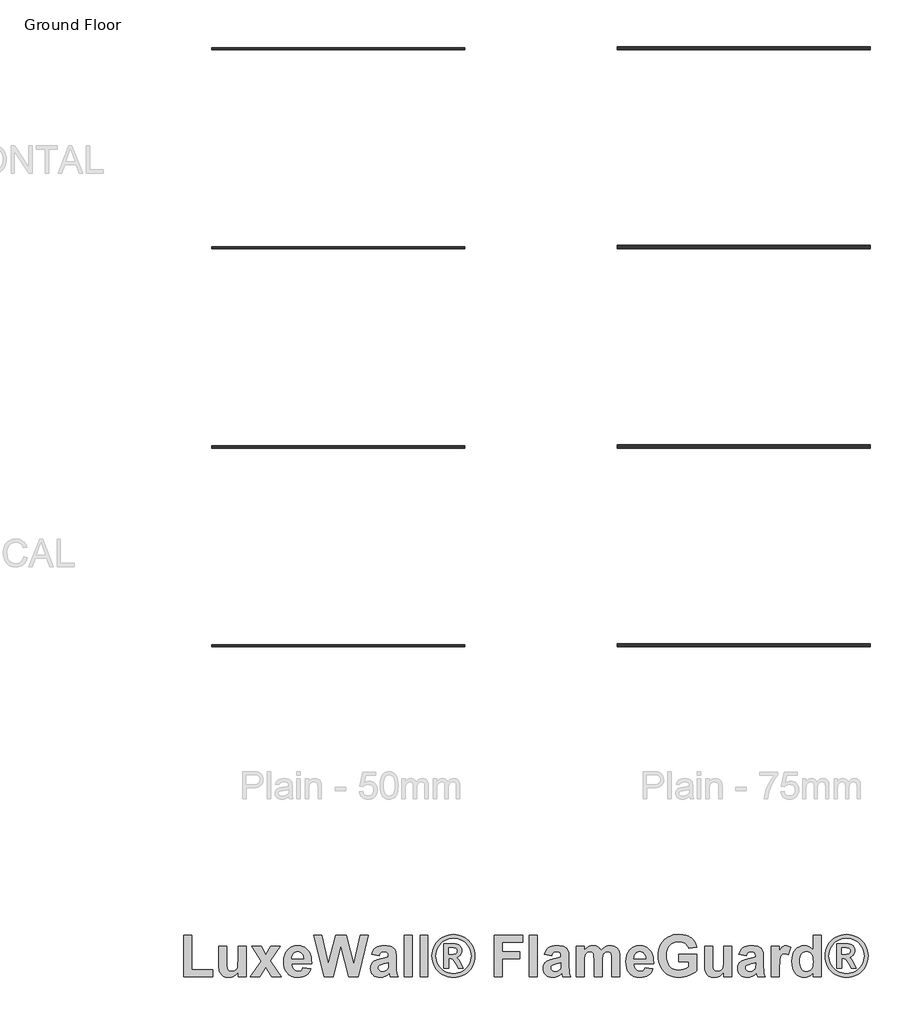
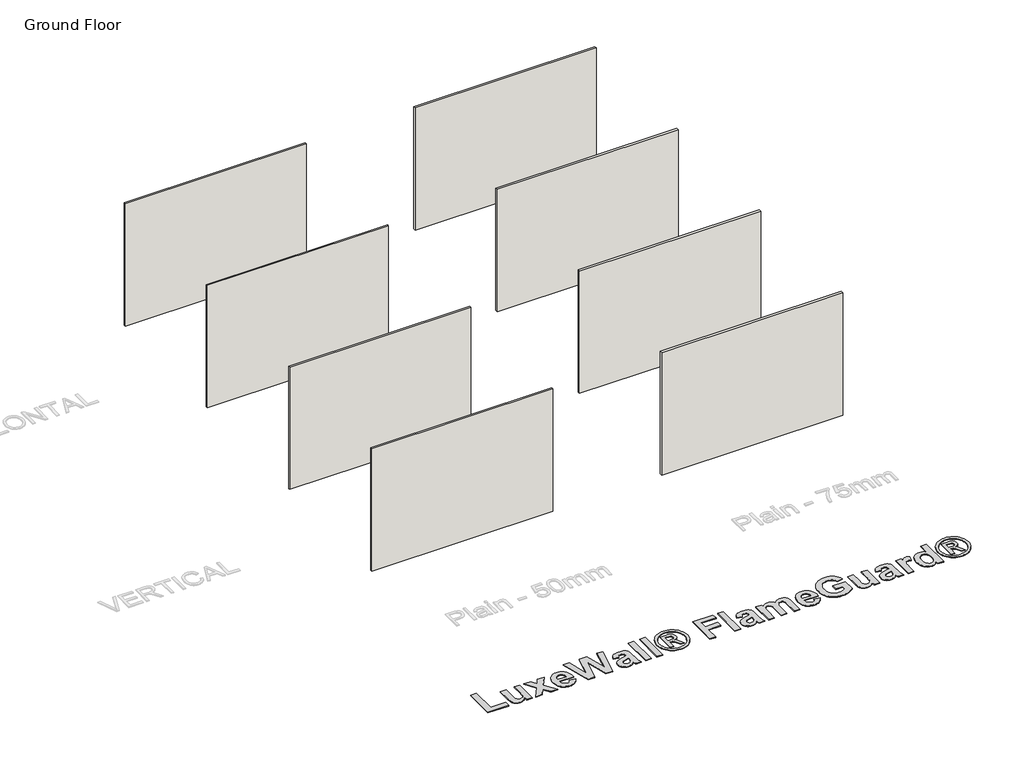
# One storey, part 1 of 2: 8 walls, 1 proxy.
"""IFC4 building model written with IfcOpenShell, lengths in millimetres."""

from ifc_helpers import new_model, si_unit, origin, origin_with_axes, place, context, project, spatial, polyline, outline, extrude, element, save

model = new_model("IFC4")

# Units and contexts
model_context = context("Model", 3, world=origin())
ifc_project = project(units=[si_unit("LENGTHUNIT", "METRE", prefix="MILLI")], contexts=[model_context])

# Site, building, storey
site = spatial("IfcSite", under=ifc_project)
building = spatial("IfcBuilding", under=site)
storey = spatial("IfcBuildingStorey", under=building, Name="Ground Floor", Elevation=0.0)

# Proxy
placement = place(None, origin())
element("IfcBuildingElementProxy", 1, Name="900mm Arial", ObjectType="900mm Arial", at=placement, inside=storey, context=model_context, shape_type="SweptSolid", body=[
    extrude(outline(polyline([(-9582.7558601, -6419.7488861), (-9582.7558601, -5497.7851027), (-9407.1437109, -5497.7851027), (-9407.1437109, -6258.7710827), (-8938.8446463, -6258.7710827), (-8938.8446463, -6419.7488861), (-9582.7558601, -6419.7488861)])), origin_with_axes(), (0.0, 0.0, 1.0), 20.0),
    extrude(outline(polyline([(-8382.7395071, -6419.7488861), (-8382.7395071, -6320.9670522), (-8401.5969478, -6345.9697748), (-8423.1840369, -6368.1571008), (-8447.5007745, -6387.5290301), (-8474.5471606, -6404.0855629), (-8503.3656745, -6417.3407931), (-8532.9987956, -6426.8088147), (-8563.4465238, -6432.4896276), (-8594.7088591, -6434.3832319), (-8626.0212141, -6432.525356), (-8655.7043549, -6426.9517282), (-8683.7582814, -6417.6623486), (-8710.1829937, -6404.6572171), (-8734.0209709, -6388.2864719), (-8754.3146926, -6368.9002511), (-8771.0641587, -6346.4985548), (-8784.2693691, -6321.081383), (-8794.2733164, -6291.5768842), (-8801.418993, -6256.9132068), (-8805.706399, -6217.0903508), (-8807.1355344, -6172.1083163), (-8807.1355344, -5746.5689808), (-8631.5233851, -5746.5689808), (-8631.5233851, -6057.77749), (-8629.1510205, -6172.9943802), (-8622.0339266, -6232.8179851), (-8608.6000545, -6261.6293533), (-8587.2773554, -6283.8095336), (-8558.6089007, -6297.9579734), (-8523.1377618, -6302.67412), (-8501.5363813, -6301.1020711), (-8481.0926004, -6296.3859245), (-8461.8064192, -6288.5256802), (-8443.6778375, -6277.5213382), (-8414.1233189, -6249.3102068), (-8395.6588905, -6214.9823762), (-8390.0066602, -6189.5366217), (-8385.9693529, -6150.5855383), (-8382.7395071, -6032.1673849), (-8382.7395071, -5746.5689808), (-8207.1273579, -5746.5689808), (-8207.1273579, -6419.7488861), (-8382.7395071, -6419.7488861)])), origin_with_axes(), (0.0, 0.0, 1.0), 20.0),
    extrude(outline(polyline([(-8112.0041104, -6419.7488861), (-7874.1959916, -6073.0978208), (-8082.7354188, -5746.5689808), (-7873.96733, -5746.5689808), (-7772.4415562, -5931.5562578), (-7662.2266397, -5746.5689808), (-7453.4585508, -5746.5689808), (-7668.1718426, -6065.3233246), (-7424.1898593, -6419.7488861), (-7632.9579481, -6419.7488861), (-7772.4415562, -6211.2094589), (-7903.2360215, -6419.7488861), (-8112.0041104, -6419.7488861)])), origin_with_axes(), (0.0, 0.0, 1.0), 20.0),
    extrude(outline(polyline([(-6948.5736218, -6214.8680454), (-6772.9614726, -6244.1367369), (-6791.9403898, -6287.889715), (-6815.7212016, -6326.0833567), (-6844.3039082, -6358.7176619), (-6877.6885095, -6385.7926307), (-6915.7178006, -6407.0510187), (-6958.2345766, -6422.2355816), (-7005.2388376, -6431.3463193), (-7056.7305835, -6434.3832319), (-7097.8789625, -6432.5932399), (-7136.2619646, -6427.2232639), (-7171.8795898, -6418.2733039), (-7204.7318382, -6405.7433599), (-7234.8187097, -6389.6334319), (-7262.1402043, -6369.9435199), (-7286.6963221, -6346.6736239), (-7308.487063, -6319.8237439), (-7336.6981944, -6270.961607), (-7356.8490026, -6216.0685191), (-7368.9394875, -6155.14448), (-7372.9696491, -6088.1894898), (-7367.624683, -6009.2440543), (-7351.5897846, -5939.330754), (-7339.5636108, -5907.7611545), (-7324.8649539, -5878.449589), (-7307.493814, -5851.3960572), (-7287.450191, -5826.6005592), (-7241.860774, -5785.1842174), (-7216.9437996, -5768.9135117), (-7190.6119811, -5755.6011161), (-7162.8653187, -5745.2470306), (-7133.7038123, -5737.8512553), (-7071.1362676, -5731.934635), (-7035.4043116, -5733.4530913), (-7001.6088339, -5738.0084602), (-6969.7498345, -5745.6007416), (-6939.8273136, -5756.2299356), (-6911.841271, -5769.8960422), (-6885.7917068, -5786.5990614), (-6861.678621, -5806.3389931), (-6839.5020135, -5829.1158374), (-6819.6763337, -5855.0296337), (-6802.6160307, -5884.1804216), (-6788.3211045, -5916.568201), (-6776.7915553, -5952.1929719), (-6768.0273829, -5991.0547344), (-6762.0285873, -6033.1534883), (-6758.3271268, -6127.0619708), (-7197.3574999, -6127.0619708), (-7194.08478, -6166.3631923), (-7186.0959135, -6201.0340154), (-7173.3909004, -6231.07444), (-7155.9697407, -6256.4844662), (-7134.9757428, -6276.6924397), (-7111.5522147, -6291.1267065), (-7085.6991566, -6299.7872666), (-7057.4165685, -6302.67412), (-7020.544877, -6297.4720674), (-6989.9613809, -6281.8659096), (-6977.0848716, -6269.8754642), (-6965.894742, -6254.7123383), (-6948.5736218, -6214.8680454)]), holes=[polyline([(-6933.939276, -6024.6215504), (-6937.0690824, -5987.5426343), (-6944.6292083, -5955.1941561), (-6956.6196537, -5927.5761159), (-6973.0404186, -5904.6885136), (-6992.6767381, -5886.7314282), (-7014.3138469, -5873.9049386), (-7037.9517453, -5866.2090449), (-7063.5904331, -5863.6437469), (-7090.8297525, -5866.3448127), (-7115.6109591, -5874.44801), (-7137.9340529, -5887.9533389), (-7157.799034, -5906.8607993), (-7173.9768459, -5930.512989), (-7185.4670939, -5958.0238441), (-7192.2697781, -5989.3933645), (-7194.3848984, -6024.6215504), (-6933.939276, -6024.6215504)])]), origin_with_axes(), (0.0, 0.0, 1.0), 20.0),
    extrude(outline(polyline([(-6482.3325121, -6419.7488861), (-6714.4240895, -5497.7851027), (-6534.2387073, -5497.7851027), (-6385.1513097, -6131.1778805), (-6224.8594912, -5497.7851027), (-5988.6520041, -5497.7851027), (-5829.0461705, -6141.6963165), (-5679.958773, -5497.7851027), (-5499.7733908, -5497.7851027), (-5728.4350434, -6419.7488861), (-5936.2884856, -6419.7488861), (-6107.0987401, -5730.5626651), (-6281.3389194, -6419.7488861), (-6482.3325121, -6419.7488861)])), origin_with_axes(), (0.0, 0.0, 1.0), 20.0),
    extrude(outline(polyline([(-5265.6238585, -5951.4498216), (-5426.6016619, -5922.18113), (-5411.4742645, -5876.8489574), (-5391.7021772, -5837.8049802), (-5367.2854001, -5805.0491985), (-5338.2239332, -5778.5816122), (-5303.0457671, -5758.1735597), (-5260.2788923, -5743.5963793), (-5209.923309, -5734.8500711), (-5151.9790171, -5731.934635), (-5099.4297111, -5733.6996172), (-5054.0546644, -5738.9945636), (-5015.853877, -5747.8194742), (-4984.827349, -5760.1743491), (-4959.4173229, -5775.2374355), (-4938.0660411, -5792.1869805), (-4920.7735036, -5811.0229841), (-4907.5397105, -5831.7454464), (-4897.7358421, -5857.9486427), (-4890.733079, -5893.2268483), (-4886.5314211, -5937.5800632), (-4885.1308685, -5991.0082875), (-4885.1308685, -6198.633068), (-4882.8156693, -6275.692045), (-4875.8700716, -6329.4275333), (-4862.579113, -6373.0447436), (-4841.2278312, -6419.7488861), (-5016.8399804, -6419.7488861), (-5033.3036194, -6363.9554429), (-5039.477484, -6341.7752626), (-5084.9239875, -6382.2197924), (-5133.4574233, -6411.1740742), (-5185.1921222, -6428.5809425), (-5240.242415, -6434.3832319), (-5287.6682709, -6430.8604133), (-5329.7920347, -6420.2919576), (-5366.6137065, -6402.6778646), (-5398.1332862, -6378.0181345), (-5423.3932531, -6347.9848556), (-5441.4360866, -6314.2501162), (-5452.2617868, -6276.8139162), (-5455.8703535, -6235.6762558), (-5454.2625762, -6207.9796131), (-5449.4392445, -6181.8264366), (-5441.4003583, -6157.2167262), (-5430.1459175, -6134.150482), (-5415.9903321, -6113.156484), (-5399.2480117, -6094.7635123), (-5379.9189564, -6078.971567), (-5358.0031661, -6065.7806479), (-5301.3522417, -6043.5433021), (-5224.2360994, -6024.3928887), (-5124.3681226, -6001.8125505), (-5060.7430177, -5980.7185131), (-5060.7430177, -5962.1969192), (-5066.2023147, -5916.5789195), (-5073.0264359, -5899.5150437), (-5082.5802055, -5886.2812506), (-5095.9068925, -5876.3773427), (-5114.0497655, -5869.3031228), (-5137.0088245, -5865.0585909), (-5164.7840697, -5863.6437469), (-5201.1984378, -5868.5028071), (-5216.0185712, -5874.5766322), (-5228.5806708, -5883.0799874), (-5249.2745503, -5909.8905662), (-5265.6238585, -5951.4498216)]), holes=[polyline([(-5060.7430177, -6112.427625), (-5159.7535133, -6136.780091), (-5215.7756182, -6150.7570345), (-5248.4742345, -6164.5624818), (-5262.3797213, -6176.2956829), (-5272.3122118, -6189.5437674), (-5278.2717061, -6204.3067353), (-5280.2582042, -6220.5845867), (-5278.6647184, -6236.7123789), (-5273.8842607, -6251.7111542), (-5265.9168312, -6265.5809125), (-5254.76243, -6278.321654), (-5241.149916, -6288.9758579), (-5225.8081482, -6296.5860035), (-5208.7371267, -6301.1520909), (-5189.9368515, -6302.67412), (-5168.1425377, -6300.9019922), (-5146.8912953, -6295.5856088), (-5126.1831244, -6286.7249697), (-5106.0180249, -6274.3200751), (-5081.4368973, -6250.4249324), (-5067.145544, -6221.727895), (-5062.3436493, -6192.1733764), (-5060.7430177, -6144.2115947), (-5060.7430177, -6112.427625)])]), origin_with_axes(), (0.0, 0.0, 1.0), 20.0),
    extrude(outline(polyline([(-4709.5187193, -6419.7488861), (-4709.5187193, -5497.7851027), (-4533.9065701, -5497.7851027), (-4533.9065701, -6419.7488861), (-4709.5187193, -6419.7488861)])), origin_with_axes(), (0.0, 0.0, 1.0), 20.0),
    extrude(outline(polyline([(-4358.2944209, -6419.7488861), (-4358.2944209, -5497.7851027), (-4182.6822716, -5497.7851027), (-4182.6822716, -6419.7488861), (-4358.2944209, -6419.7488861)])), origin_with_axes(), (0.0, 0.0, 1.0), 20.0),
    extrude(outline(polyline([(-3619.2599596, -5483.150757), (-3558.7146414, -5486.973694), (-3499.4126709, -5498.442505), (-3441.3540481, -5517.55719), (-3384.5387731, -5544.3177491), (-3331.3535019, -5578.2168391), (-3284.1848903, -5618.747117), (-3243.0329385, -5665.9085828), (-3207.8976465, -5719.7012366), (-3179.7865546, -5777.4740323), (-3159.7072032, -5836.5759238), (-3147.6595924, -5897.0069112), (-3143.6437221, -5958.7669944), (-3147.5809899, -6020.1340655), (-3159.3927934, -6080.0720012), (-3179.0791326, -6138.5808015), (-3206.6400074, -6195.6604666), (-3241.2465194, -6248.9171946), (-3282.0697701, -6295.9571839), (-3329.1097594, -6336.7804346), (-3382.3664874, -6371.3869466), (-3439.4461525, -6398.9478214), (-3497.9549528, -6418.6341606), (-3557.8928885, -6430.4459641), (-3619.2599596, -6434.3832319), (-3680.6270306, -6430.4459641), (-3740.5649663, -6418.6341606), (-3799.0737666, -6398.9478214), (-3856.1534317, -6371.3869466), (-3909.4101597, -6336.7804346), (-3956.4501491, -6295.9571839), (-3997.2733997, -6248.9171946), (-4031.8799117, -6195.6604666), (-4059.4407865, -6138.5808015), (-4079.1271257, -6080.0720012), (-4090.9389292, -6020.1340655), (-4094.876197, -5958.7669944), (-4090.8603268, -5897.0069112), (-4078.8127159, -5836.5759238), (-4058.7333646, -5777.4740323), (-4030.6222726, -5719.7012366), (-3995.4869806, -5665.9085828), (-3954.3350288, -5618.747117), (-3907.1664172, -5578.2168391), (-3853.981146, -5544.3177491), (-3797.165871, -5517.55719), (-3739.1072482, -5498.442505), (-3679.8052778, -5486.973694), (-3619.2599596, -5483.150757)]), holes=[polyline([(-3619.4886212, -5570.9568316), (-3668.8152271, -5574.0652009), (-3717.0985642, -5583.3903089), (-3764.3386325, -5598.9321556), (-3810.535432, -5620.690741), (-3853.7882127, -5648.2659072), (-3892.1962247, -5681.2574963), (-3925.7594679, -5719.6655082), (-3954.4779423, -5763.4899431), (-3977.4870211, -5810.5799522), (-3993.9220774, -5858.7846868), (-4003.7831112, -5908.104147), (-4007.0701224, -5958.5383328), (-4003.8617136, -6008.5937977), (-3994.2364872, -6057.4630803), (-3978.1944431, -6105.1461805), (-3955.7355814, -6151.6430984), (-3927.52445, -6195.031647), (-3894.2255968, -6233.3896392), (-3855.8390219, -6266.7170751), (-3812.3647252, -6295.0139546), (-3765.7963505, -6317.5728558), (-3718.1275416, -6333.6863566), (-3669.3582985, -6343.3544571), (-3619.4886212, -6346.5771573), (-3569.440302, -6343.3544571), (-3520.5924565, -6333.6863566), (-3472.9450846, -6317.5728558), (-3426.4981864, -6295.0139546), (-3383.1525119, -6266.7170751), (-3344.808811, -6233.3896392), (-3311.4670838, -6195.031647), (-3283.1273302, -6151.6430984), (-3260.5184093, -6105.1461805), (-3244.3691801, -6057.4630803), (-3234.6796425, -6008.5937977), (-3231.4497967, -5958.5383328), (-3234.736808, -5908.104147), (-3244.5978417, -5858.7846868), (-3261.032898, -5810.5799522), (-3284.0419768, -5763.4899431), (-3312.7818883, -5719.6655082), (-3346.4094426, -5681.2574963), (-3384.9246397, -5648.2659072), (-3428.3274796, -5620.690741), (-3474.660047, -5598.9321556), (-3521.9644264, -5583.3903089), (-3570.2406178, -5574.0652009), (-3619.4886212, -5570.9568316)])]), origin_with_axes(), (0.0, 0.0, 1.0), 20.0),
    extrude(outline(polyline([(-3831.4579732, -6229.5023911), (-3831.4579732, -5688.0315977), (-3732.4474776, -5688.0315977), (-3576.7288922, -5689.4035676), (-3533.0259338, -5697.0923157), (-3500.2415694, -5711.0120938), (-3475.1745357, -5732.5348719), (-3454.6235697, -5763.0326198), (-3440.9038705, -5799.9043113), (-3436.3306375, -5840.54892), (-3438.4529034, -5868.7600514), (-3444.8197013, -5894.8560625), (-3455.4310311, -5918.8369533), (-3470.2868929, -5940.7027239), (-3488.9871287, -5959.5387275), (-3511.1315806, -5974.4303176), (-3536.7202486, -5985.3774943), (-3565.7531328, -5992.3802574), (-3545.4879939, -6002.155543), (-3530.4249075, -6012.7311445), (-3496.2399904, -6054.3475652), (-3458.9681411, -6120.2021212), (-3407.0619459, -6229.5023911), (-3509.5023663, -6229.5023911), (-3560.0365915, -6142.8396248), (-3604.997189, -6071.4971892), (-3637.4385609, -6032.6247082), (-3651.4083588, -6022.7208004), (-3667.1359931, -6015.6465805), (-3703.864771, -6009.9872046), (-3729.0175528, -6009.9872046), (-3729.0175528, -6229.5023911), (-3831.4579732, -6229.5023911)]), holes=[polyline([(-3729.0175528, -5922.18113), (-3689.0017636, -5922.18113), (-3619.8887791, -5920.3804195), (-3583.1314184, -5914.978288), (-3564.7241554, -5905.0315061), (-3550.6614638, -5889.5968445), (-3541.7436593, -5870.1891868), (-3538.7710578, -5848.3234162), (-3541.6864939, -5827.1436306), (-3550.4328021, -5808.4219578), (-3564.5526592, -5793.4160369), (-3583.5887418, -5783.3835069), (-3620.6890949, -5777.724131), (-3689.0017636, -5775.8376723), (-3729.0175528, -5775.8376723), (-3729.0175528, -5922.18113)])]), origin_with_axes(), (0.0, 0.0, 1.0), 20.0),
    extrude(outline(polyline([(-2719.2476948, -6419.7488861), (-2719.2476948, -5497.7851027), (-2089.9708268, -5497.7851027), (-2089.9708268, -5658.7629062), (-2543.6355456, -5658.7629062), (-2543.6355456, -5863.6437469), (-2148.5082099, -5863.6437469), (-2148.5082099, -6024.6215504), (-2543.6355456, -6024.6215504), (-2543.6355456, -6419.7488861), (-2719.2476948, -6419.7488861)])), origin_with_axes(), (0.0, 0.0, 1.0), 20.0),
    extrude(outline(polyline([(-1943.6273691, -6419.7488861), (-1943.6273691, -5497.7851027), (-1768.0152199, -5497.7851027), (-1768.0152199, -6419.7488861), (-1943.6273691, -6419.7488861)])), origin_with_axes(), (0.0, 0.0, 1.0), 20.0),
    extrude(outline(polyline([(-1446.059613, -5951.4498216), (-1607.0374164, -5922.18113), (-1591.910019, -5876.8489574), (-1572.1379317, -5837.8049802), (-1547.7211546, -5805.0491985), (-1518.6596877, -5778.5816122), (-1483.4815216, -5758.1735597), (-1440.7146469, -5743.5963793), (-1390.3590635, -5734.8500711), (-1332.4147716, -5731.934635), (-1279.8654656, -5733.6996172), (-1234.4904189, -5738.9945636), (-1196.2896316, -5747.8194742), (-1165.2631036, -5760.1743491), (-1139.8530774, -5775.2374355), (-1118.5017956, -5792.1869805), (-1101.2092581, -5811.0229841), (-1087.975465, -5831.7454464), (-1078.1715966, -5857.9486427), (-1071.1688335, -5893.2268483), (-1066.9671756, -5937.5800632), (-1065.566623, -5991.0082875), (-1065.566623, -6198.633068), (-1063.2514238, -6275.692045), (-1056.3058261, -6329.4275333), (-1043.0148675, -6373.0447436), (-1021.6635857, -6419.7488861), (-1197.2757349, -6419.7488861), (-1213.7393739, -6363.9554429), (-1219.9132385, -6341.7752626), (-1265.359742, -6382.2197924), (-1313.8931778, -6411.1740742), (-1365.6278767, -6428.5809425), (-1420.6781696, -6434.3832319), (-1468.1040254, -6430.8604133), (-1510.2277893, -6420.2919576), (-1547.049461, -6402.6778646), (-1578.5690407, -6378.0181345), (-1603.8290076, -6347.9848556), (-1621.8718412, -6314.2501162), (-1632.6975413, -6276.8139162), (-1636.306108, -6235.6762558), (-1634.6983307, -6207.9796131), (-1629.874999, -6181.8264366), (-1621.8361128, -6157.2167262), (-1610.5816721, -6134.150482), (-1596.4260866, -6113.156484), (-1579.6837662, -6094.7635123), (-1560.3547109, -6078.971567), (-1538.4389207, -6065.7806479), (-1481.7879962, -6043.5433021), (-1404.6718539, -6024.3928887), (-1304.8038771, -6001.8125505), (-1241.1787722, -5980.7185131), (-1241.1787722, -5962.1969192), (-1246.6380692, -5916.5789195), (-1253.4621904, -5899.5150437), (-1263.0159601, -5886.2812506), (-1276.342647, -5876.3773427), (-1294.48552, -5869.3031228), (-1317.4445791, -5865.0585909), (-1345.2198242, -5863.6437469), (-1381.6341924, -5868.5028071), (-1396.4543257, -5874.5766322), (-1409.0164253, -5883.0799874), (-1429.7103048, -5909.8905662), (-1446.059613, -5951.4498216)]), holes=[polyline([(-1241.1787722, -6112.427625), (-1340.1892678, -6136.780091), (-1396.2113727, -6150.7570345), (-1428.909989, -6164.5624818), (-1442.8154758, -6176.2956829), (-1452.7479663, -6189.5437674), (-1458.7074607, -6204.3067353), (-1460.6939588, -6220.5845867), (-1459.1004729, -6236.7123789), (-1454.3200152, -6251.7111542), (-1446.3525857, -6265.5809125), (-1435.1981845, -6278.321654), (-1421.5856705, -6288.9758579), (-1406.2439027, -6296.5860035), (-1389.1728812, -6301.1520909), (-1370.372606, -6302.67412), (-1348.5782922, -6300.9019922), (-1327.3270499, -6295.5856088), (-1306.618879, -6286.7249697), (-1286.4537795, -6274.3200751), (-1261.8726518, -6250.4249324), (-1247.5812985, -6221.727895), (-1242.7794038, -6192.1733764), (-1241.1787722, -6144.2115947), (-1241.1787722, -6112.427625)])]), origin_with_axes(), (0.0, 0.0, 1.0), 20.0),
    extrude(outline(polyline([(-904.5888196, -5746.5689808), (-728.9766704, -5746.5689808), (-728.9766704, -5836.6616719), (-685.7453267, -5790.8435933), (-662.6612183, -5772.8436338), (-638.5981522, -5758.1163943), (-613.5561284, -5746.6618746), (-587.5351469, -5738.4800748), (-560.5352076, -5733.570995), (-532.5563107, -5731.934635), (-503.2661822, -5733.5424123), (-475.9911344, -5738.365744), (-450.7311675, -5746.4046302), (-427.4862814, -5757.659071), (-406.2421847, -5772.1719402), (-386.9845861, -5789.9861121), (-369.7134857, -5811.1015866), (-354.4288834, -5835.5183637), (-309.4682859, -5789.9861121), (-285.6803284, -5772.1719402), (-261.0205983, -5757.659071), (-235.503387, -5746.4046302), (-209.1429858, -5738.365744), (-181.9393948, -5733.5424123), (-153.892614, -5731.934635), (-119.1503342, -5733.813948), (-87.1805768, -5739.4518869), (-57.9833421, -5748.8484516), (-31.5586298, -5762.0036424), (-8.0922277, -5778.8031281), (12.2300766, -5799.1325782), (29.4082833, -5822.9919925), (43.4423922, -5850.3813711), (51.2454711, -5875.2054518), (56.8190989, -5906.6893031), (61.2780011, -5989.6363175), (61.2780011, -6419.7488861), (-114.3341481, -6419.7488861), (-114.3341481, -6032.1673849), (-118.7930503, -5949.2203704), (-124.3666781, -5921.1664439), (-132.169757, -5902.0589046), (-145.6893772, -5885.2522731), (-162.467426, -5873.2475364), (-182.5039033, -5866.0446943), (-205.7988091, -5863.6437469), (-240.8697901, -5869.388871), (-273.8256508, -5886.624243), (-288.6600755, -5899.4507326), (-301.2650491, -5914.9497053), (-319.786643, -5953.9650997), (-330.3336617, -6011.1876783), (-333.8493346, -6094.1346928), (-333.8493346, -6419.7488861), (-509.4614838, -6419.7488861), (-509.4614838, -6048.1737006), (-511.7481004, -5966.7415696), (-518.6079499, -5920.4661676), (-530.2411115, -5895.4277167), (-546.847664, -5877.7064386), (-569.3994195, -5867.1594199), (-598.86819, -5863.6437469), (-636.4258665, -5869.2173747), (-669.981964, -5885.9382581), (-684.6448925, -5898.3288614), (-697.0783698, -5913.2061602), (-715.2569712, -5950.4208441), (-725.5467456, -6006.4715317), (-728.9766704, -6090.2474447), (-728.9766704, -6419.7488861), (-904.5888196, -6419.7488861), (-904.5888196, -5746.5689808)])), origin_with_axes(), (0.0, 0.0, 1.0), 20.0),
    extrude(outline(polyline([(617.3831403, -6214.8680454), (792.9952895, -6244.1367369), (774.0163724, -6287.889715), (750.2355605, -6326.0833567), (721.6528539, -6358.7176619), (688.2682526, -6385.7926307), (650.2389615, -6407.0510187), (607.7221855, -6422.2355816), (560.7179245, -6431.3463193), (509.2261786, -6434.3832319), (468.0777997, -6432.5932399), (429.6947976, -6427.2232639), (394.0771723, -6418.2733039), (361.224924, -6405.7433599), (331.1380524, -6389.6334319), (303.8165578, -6369.9435199), (279.26044, -6346.6736239), (257.4696991, -6319.8237439), (229.2585677, -6270.961607), (209.1077595, -6216.0685191), (197.0172747, -6155.14448), (192.987113, -6088.1894898), (198.3320792, -6009.2440543), (214.3669776, -5939.330754), (226.3931514, -5907.7611545), (241.0918082, -5878.449589), (258.4629481, -5851.3960572), (278.5065711, -5826.6005592), (324.0959881, -5785.1842174), (349.0129626, -5768.9135117), (375.344781, -5755.6011161), (403.0914434, -5745.2470306), (432.2529498, -5737.8512553), (494.8204945, -5731.934635), (530.5524506, -5733.4530913), (564.3479283, -5738.0084602), (596.2069276, -5745.6007416), (626.1294485, -5756.2299356), (654.1154911, -5769.8960422), (680.1650553, -5786.5990614), (704.2781412, -5806.3389931), (726.4547486, -5829.1158374), (746.2804285, -5855.0296337), (763.3407315, -5884.1804216), (777.6356576, -5916.568201), (789.1652068, -5952.1929719), (797.9293793, -5991.0547344), (803.9281748, -6033.1534883), (807.6296353, -6127.0619708), (368.5992623, -6127.0619708), (371.8719822, -6166.3631923), (379.8608486, -6201.0340154), (392.5658617, -6231.07444), (409.9870214, -6256.4844662), (430.9810194, -6276.6924397), (454.4045474, -6291.1267065), (480.2576055, -6299.7872666), (508.5401937, -6302.67412), (545.4118851, -6297.4720674), (575.9953812, -6281.8659096), (588.8718905, -6269.8754642), (600.0620201, -6254.7123383), (617.3831403, -6214.8680454)]), holes=[polyline([(632.0174861, -6024.6215504), (628.8876797, -5987.5426343), (621.3275538, -5955.1941561), (609.3371084, -5927.5761159), (592.9163435, -5904.6885136), (573.2800241, -5886.7314282), (551.6429152, -5873.9049386), (528.0050168, -5866.2090449), (502.366329, -5863.6437469), (475.1270097, -5866.3448127), (450.3458031, -5874.44801), (428.0227092, -5887.9533389), (408.1577282, -5906.8607993), (391.9799162, -5930.512989), (380.4896682, -5958.0238441), (373.686984, -5989.3933645), (371.5718637, -6024.6215504), (632.0174861, -6024.6215504)])]), origin_with_axes(), (0.0, 0.0, 1.0), 20.0),
    extrude(outline(polyline([(1363.7347745, -6083.1589335), (1363.7347745, -5922.18113), (1758.8621102, -5922.18113), (1758.8621102, -6289.8690674), (1726.8208962, -6317.701478), (1688.3199904, -6343.8046348), (1643.3593929, -6368.1785378), (1591.9391038, -6390.8231871), (1537.1174726, -6409.8807067), (1481.9528489, -6423.4932207), (1426.4452327, -6431.6607291), (1370.5946241, -6434.3832319), (1301.7531753, -6430.5960233), (1237.4563768, -6419.2343974), (1177.7042287, -6400.2983543), (1122.496731, -6373.787894), (1072.8485696, -6340.2389421), (1029.7744308, -6300.1874245), (993.2743145, -6253.6333412), (963.3482207, -6200.5766921), (940.0390235, -6143.0325581), (923.3895969, -6083.0160199), (913.399941, -6020.5270777), (910.0700557, -5955.5657313), (913.8358273, -5885.7596162), (925.133142, -5819.9407886), (943.962, -5758.1092486), (970.3224011, -5700.2649961), (1003.9428098, -5647.6656704), (1044.5516901, -5601.5689103), (1092.1490423, -5561.974716), (1146.7348661, -5528.8830875), (1193.6962531, -5508.8751929), (1246.0883542, -5494.5838396), (1303.9111696, -5486.0090276), (1367.1646993, -5483.150757), (1448.11807, -5487.7668641), (1519.7106043, -5501.6151854), (1581.9423022, -5524.695721), (1609.5478375, -5539.6980691), (1634.8131637, -5557.0084708), (1678.7090553, -5597.4672919), (1714.0158436, -5644.9860416), (1740.7335286, -5699.5647198), (1758.8621102, -5761.2033266), (1583.249961, -5790.4720181), (1570.7164442, -5758.3093275), (1553.6954424, -5729.7337666), (1532.1869557, -5704.7453354), (1506.1909841, -5683.3440338), (1476.1934335, -5666.1872642), (1442.6802101, -5653.9324288), (1405.6513137, -5646.5795275), (1365.1067444, -5644.1285604), (1304.3542016, -5648.9161638), (1250.1470985, -5663.2789738), (1202.4854353, -5687.2169906), (1161.3692119, -5720.7302141), (1143.6300696, -5741.0417999), (1128.2561463, -5763.6757307), (1104.6039566, -5815.910627), (1090.4126428, -5877.4349029), (1085.6822049, -5948.2485584), (1090.3840601, -6024.4571998), (1104.4896258, -6090.5046891), (1127.998902, -6146.3910261), (1143.2799315, -6170.5237625), (1160.9118886, -6192.1162109), (1201.4564579, -6227.6802436), (1247.860482, -6253.0831241), (1300.123961, -6268.3248524), (1358.2468948, -6273.4054285), (1418.527823, -6267.8318007), (1479.0945782, -6251.1109173), (1535.4882583, -6226.4440415), (1583.249961, -6197.0324365), (1583.249961, -6083.1589335), (1363.7347745, -6083.1589335)])), origin_with_axes(), (0.0, 0.0, 1.0), 20.0),
    extrude(outline(polyline([(2358.8702867, -6419.7488861), (2358.8702867, -6320.9670522), (2340.0128461, -6345.9697748), (2318.4257569, -6368.1571008), (2294.1090193, -6387.5290301), (2267.0626332, -6404.0855629), (2238.2441193, -6417.3407931), (2208.6109982, -6426.8088147), (2178.1632701, -6432.4896276), (2146.9009347, -6434.3832319), (2115.5885797, -6432.525356), (2085.9054389, -6426.9517282), (2057.8515124, -6417.6623486), (2031.4268002, -6404.6572171), (2007.5888229, -6388.2864719), (1987.2951012, -6368.9002511), (1970.5456351, -6346.4985548), (1957.3404247, -6321.081383), (1947.3364774, -6291.5768842), (1940.1908008, -6256.9132068), (1935.9033948, -6217.0903508), (1934.4742594, -6172.1083163), (1934.4742594, -5746.5689808), (2110.0864087, -5746.5689808), (2110.0864087, -6057.77749), (2112.4587733, -6172.9943802), (2119.5758672, -6232.8179851), (2133.0097393, -6261.6293533), (2154.3324384, -6283.8095336), (2183.0008931, -6297.9579734), (2218.472032, -6302.67412), (2240.0734125, -6301.1020711), (2260.5171934, -6296.3859245), (2279.8033746, -6288.5256802), (2297.9319563, -6277.5213382), (2327.4864749, -6249.3102068), (2345.9509033, -6214.9823762), (2351.6031336, -6189.5366217), (2355.6404409, -6150.5855383), (2358.8702867, -6032.1673849), (2358.8702867, -5746.5689808), (2534.4824359, -5746.5689808), (2534.4824359, -6419.7488861), (2358.8702867, -6419.7488861)])), origin_with_axes(), (0.0, 0.0, 1.0), 20.0),
    extrude(outline(polyline([(2856.4380428, -5951.4498216), (2695.4602394, -5922.18113), (2710.5876368, -5876.8489574), (2730.3597241, -5837.8049802), (2754.7765012, -5805.0491985), (2783.8379681, -5778.5816122), (2819.0161343, -5758.1735597), (2861.783009, -5743.5963793), (2912.1385923, -5734.8500711), (2970.0828842, -5731.934635), (3022.6321902, -5733.6996172), (3068.0072369, -5738.9945636), (3106.2080243, -5747.8194742), (3137.2345523, -5760.1743491), (3162.6445784, -5775.2374355), (3183.9958602, -5792.1869805), (3201.2883977, -5811.0229841), (3214.5221909, -5831.7454464), (3224.3260592, -5857.9486427), (3231.3288223, -5893.2268483), (3235.5304802, -5937.5800632), (3236.9310328, -5991.0082875), (3236.9310328, -6198.633068), (3239.246232, -6275.692045), (3246.1918297, -6329.4275333), (3259.4827883, -6373.0447436), (3280.8340701, -6419.7488861), (3105.2219209, -6419.7488861), (3088.7582819, -6363.9554429), (3082.5844173, -6341.7752626), (3037.1379138, -6382.2197924), (2988.6044781, -6411.1740742), (2936.8697791, -6428.5809425), (2881.8194863, -6434.3832319), (2834.3936304, -6430.8604133), (2792.2698666, -6420.2919576), (2755.4481948, -6402.6778646), (2723.9286151, -6378.0181345), (2698.6686482, -6347.9848556), (2680.6258147, -6314.2501162), (2669.8001146, -6276.8139162), (2666.1915479, -6235.6762558), (2667.7993251, -6207.9796131), (2672.6226568, -6181.8264366), (2680.6615431, -6157.2167262), (2691.9159838, -6134.150482), (2706.0715692, -6113.156484), (2722.8138896, -6094.7635123), (2742.1429449, -6078.971567), (2764.0587352, -6065.7806479), (2820.7096596, -6043.5433021), (2897.825802, -6024.3928887), (2997.6937787, -6001.8125505), (3061.3188836, -5980.7185131), (3061.3188836, -5962.1969192), (3055.8595866, -5916.5789195), (3049.0354654, -5899.5150437), (3039.4816958, -5886.2812506), (3026.1550088, -5876.3773427), (3008.0121358, -5869.3031228), (2985.0530768, -5865.0585909), (2957.2778316, -5863.6437469), (2920.8634635, -5868.5028071), (2906.0433301, -5874.5766322), (2893.4812306, -5883.0799874), (2872.787351, -5909.8905662), (2856.4380428, -5951.4498216)]), holes=[polyline([(3061.3188836, -6112.427625), (2962.308388, -6136.780091), (2906.2862831, -6150.7570345), (2873.5876668, -6164.5624818), (2859.68218, -6176.2956829), (2849.7496895, -6189.5437674), (2843.7901952, -6204.3067353), (2841.8036971, -6220.5845867), (2843.397183, -6236.7123789), (2848.1776406, -6251.7111542), (2856.1450701, -6265.5809125), (2867.2994713, -6278.321654), (2880.9119853, -6288.9758579), (2896.2537531, -6296.5860035), (2913.3247746, -6301.1520909), (2932.1250499, -6302.67412), (2953.9193636, -6300.9019922), (2975.170606, -6295.5856088), (2995.8787769, -6286.7249697), (3016.0438764, -6274.3200751), (3040.625004, -6250.4249324), (3054.9163573, -6221.727895), (3059.718252, -6192.1733764), (3061.3188836, -6144.2115947), (3061.3188836, -6112.427625)])]), origin_with_axes(), (0.0, 0.0, 1.0), 20.0),
    extrude(outline(polyline([(3588.1553312, -6419.7488861), (3412.543182, -6419.7488861), (3412.543182, -5746.5689808), (3588.1553312, -5746.5689808), (3588.1553312, -5840.3202584), (3625.2556844, -5785.1842174), (3642.3052689, -5766.1695718), (3658.3544586, -5752.8571762), (3691.6247291, -5737.1652703), (3729.2395709, -5731.934635), (3756.8933395, -5734.2498343), (3784.0612021, -5741.195432), (3810.7431587, -5752.7714281), (3836.9392093, -5768.9778228), (3785.7189991, -5936.1294908), (3743.4165934, -5914.6924609), (3723.4658642, -5909.3332034), (3704.3154508, -5907.5467842), (3670.5592743, -5912.5487579), (3642.4624737, -5927.5546789), (3630.500611, -5939.5665613), (3619.8821355, -5955.594314), (3602.6753462, -5999.6974303), (3596.3228396, -6032.9105353), (3591.785335, -6080.4149936), (3588.1553312, -6218.2979702), (3588.1553312, -6419.7488861)])), origin_with_axes(), (0.0, 0.0, 1.0), 20.0),
    extrude(outline(polyline([(4510.1191146, -6419.7488861), (4334.5069654, -6419.7488861), (4334.5069654, -6322.7963454), (4313.9631451, -6349.2282033), (4291.6614883, -6372.0443489), (4267.601995, -6391.244782), (4241.7846653, -6406.8295028), (4215.0383976, -6418.8842593), (4188.1920904, -6427.4947996), (4161.2457438, -6432.6611238), (4134.1993577, -6434.3832319), (4080.956921, -6428.5523598), (4031.6731892, -6411.0597433), (3986.3481623, -6381.9053826), (3944.9818402, -6341.0892776), (3926.5191981, -6316.6117623), (3910.5182417, -6289.8261934), (3885.9013857, -6229.3308949), (3871.131272, -6159.6033822), (3866.2079008, -6080.6436553), (3871.1241264, -6000.3548325), (3885.872803, -5930.2986187), (3896.9343104, -5899.1077401), (3910.4539306, -5870.4750138), (3926.4316636, -5844.4004397), (3944.8675093, -5820.8840179), (3986.7983399, -5781.9686629), (4033.931223, -5754.1719807), (4086.2661588, -5737.4939715), (4143.8031471, -5731.934635), (4197.0527295, -5737.6940504), (4246.58656, -5754.9722965), (4292.4046386, -5783.7693734), (4334.5069654, -5824.085281), (4334.5069654, -5497.7851027), (4510.1191146, -5497.7851027), (4510.1191146, -6419.7488861)]), holes=[polyline([(4041.8200501, -6070.3538809), (4043.6493433, -6121.974249), (4049.1372229, -6165.9344517), (4058.283689, -6202.2344891), (4071.0887416, -6230.8743611), (4094.3407734, -6262.2867556), (4121.7944631, -6284.7241803), (4153.4498106, -6298.1866351), (4189.306816, -6302.67412), (4218.4611767, -6299.3085063), (4245.3289209, -6289.2116652), (4269.9100486, -6272.3835967), (4292.2045597, -6248.8243008), (4310.7118622, -6218.5766516), (4323.931364, -6181.683523), (4331.8630651, -6138.1449152), (4334.5069654, -6087.9608282), (4331.9416675, -6032.4603577), (4324.2457738, -5985.3203288), (4311.4192842, -5946.5407417), (4293.4621988, -5916.1215962), (4271.4892431, -5893.1625372), (4246.6151427, -5876.7632093), (4218.8398976, -5866.9236125), (4188.1635077, -5863.6437469), (4158.3231621, -5866.8878841), (4130.9980946, -5876.6202957), (4106.1883053, -5892.8409817), (4083.8937941, -5915.5499421), (4065.4865311, -5944.6900114), (4052.3384861, -5980.2040244), (4044.4496591, -6022.0919809), (4041.8200501, -6070.3538809)])]), origin_with_axes(), (0.0, 0.0, 1.0), 20.0),
    extrude(outline(polyline([(5073.5414267, -5483.150757), (5134.0867449, -5486.973694), (5193.3887154, -5498.442505), (5251.4473381, -5517.55719), (5308.2626131, -5544.3177491), (5361.4478844, -5578.2168391), (5408.6164959, -5618.747117), (5449.7684477, -5665.9085828), (5484.9037398, -5719.7012366), (5513.0148317, -5777.4740323), (5533.0941831, -5836.5759238), (5545.1417939, -5897.0069112), (5549.1576642, -5958.7669944), (5545.2203963, -6020.1340655), (5533.4085928, -6080.0720012), (5513.7222537, -6138.5808015), (5486.1613789, -6195.6604666), (5451.5548669, -6248.9171946), (5410.7316162, -6295.9571839), (5363.6916269, -6336.7804346), (5310.4348988, -6371.3869466), (5253.3552338, -6398.9478214), (5194.8464334, -6418.6341606), (5134.9084977, -6430.4459641), (5073.5414267, -6434.3832319), (5012.1743557, -6430.4459641), (4952.23642, -6418.6341606), (4893.7276196, -6398.9478214), (4836.6479546, -6371.3869466), (4783.3912266, -6336.7804346), (4736.3512372, -6295.9571839), (4695.5279865, -6248.9171946), (4660.9214745, -6195.6604666), (4633.3605997, -6138.5808015), (4613.6742606, -6080.0720012), (4601.8624571, -6020.1340655), (4597.9251892, -5958.7669944), (4601.9410595, -5897.0069112), (4613.9886703, -5836.5759238), (4634.0680217, -5777.4740323), (4662.1791136, -5719.7012366), (4697.3144057, -5665.9085828), (4738.4663575, -5618.747117), (4785.634969, -5578.2168391), (4838.8202403, -5544.3177491), (4895.6355153, -5517.55719), (4953.694138, -5498.442505), (5012.9961085, -5486.973694), (5073.5414267, -5483.150757)]), holes=[polyline([(5073.3127651, -5570.9568316), (5023.9861592, -5574.0652009), (4975.7028221, -5583.3903089), (4928.4627538, -5598.9321556), (4882.2659543, -5620.690741), (4839.0131736, -5648.2659072), (4800.6051616, -5681.2574963), (4767.0419184, -5719.6655082), (4738.323444, -5763.4899431), (4715.3143652, -5810.5799522), (4698.8793089, -5858.7846868), (4689.0182751, -5908.104147), (4685.7312639, -5958.5383328), (4688.9396727, -6008.5937977), (4698.5648991, -6057.4630803), (4714.6069432, -6105.1461805), (4737.0658049, -6151.6430984), (4765.2769363, -6195.031647), (4798.5757894, -6233.3896392), (4836.9623644, -6266.7170751), (4880.4366611, -6295.0139546), (4927.0050358, -6317.5728558), (4974.6738447, -6333.6863566), (5023.4430878, -6343.3544571), (5073.3127651, -6346.5771573), (5123.3610843, -6343.3544571), (5172.2089298, -6333.6863566), (5219.8563017, -6317.5728558), (5266.3031999, -6295.0139546), (5309.6488744, -6266.7170751), (5347.9925753, -6233.3896392), (5381.3343025, -6195.031647), (5409.6740561, -6151.6430984), (5432.282977, -6105.1461805), (5448.4322062, -6057.4630803), (5458.1217437, -6008.5937977), (5461.3515896, -5958.5383328), (5458.0645783, -5908.104147), (5448.2035445, -5858.7846868), (5431.7684883, -5810.5799522), (5408.7594095, -5763.4899431), (5380.019498, -5719.6655082), (5346.3919437, -5681.2574963), (5307.8767466, -5648.2659072), (5264.4739067, -5620.690741), (5218.1413393, -5598.9321556), (5170.8369599, -5583.3903089), (5122.5607685, -5574.0652009), (5073.3127651, -5570.9568316)])]), origin_with_axes(), (0.0, 0.0, 1.0), 20.0),
    extrude(outline(polyline([(4861.3434131, -6229.5023911), (4861.3434131, -5688.0315977), (4960.3539087, -5688.0315977), (5116.0724941, -5689.4035676), (5159.7754525, -5697.0923157), (5192.5598169, -5711.0120938), (5217.6268506, -5732.5348719), (5238.1778166, -5763.0326198), (5251.8975158, -5799.9043113), (5256.4707488, -5840.54892), (5254.3484828, -5868.7600514), (5247.981685, -5894.8560625), (5237.3703551, -5918.8369533), (5222.5144934, -5940.7027239), (5203.8142576, -5959.5387275), (5181.6698057, -5974.4303176), (5156.0811376, -5985.3774943), (5127.0482534, -5992.3802574), (5147.3133924, -6002.155543), (5162.3764788, -6012.7311445), (5196.5613958, -6054.3475652), (5233.8332452, -6120.2021212), (5285.7394403, -6229.5023911), (5183.29902, -6229.5023911), (5132.7647947, -6142.8396248), (5087.8041973, -6071.4971892), (5055.3628253, -6032.6247082), (5041.3930275, -6022.7208004), (5025.6653932, -6015.6465805), (4988.9366152, -6009.9872046), (4963.7838334, -6009.9872046), (4963.7838334, -6229.5023911), (4861.3434131, -6229.5023911)]), holes=[polyline([(4963.7838334, -5922.18113), (5003.7996227, -5922.18113), (5072.9126072, -5920.3804195), (5109.6699678, -5914.978288), (5128.0772309, -5905.0315061), (5142.1399225, -5889.5968445), (5151.057727, -5870.1891868), (5154.0303284, -5848.3234162), (5151.1148924, -5827.1436306), (5142.3685842, -5808.4219578), (5128.2487271, -5793.4160369), (5109.2126445, -5783.3835069), (5072.1122914, -5777.724131), (5003.7996227, -5775.8376723), (4963.7838334, -5775.8376723), (4963.7838334, -5922.18113)])]), origin_with_axes(), (0.0, 0.0, 1.0), 20.0),
])

# Walls
element("IfcWall", 2, ObjectType="Cladding_Bondor_LuxeWall_FlameGuard_Vertical_Plain_50x900mm_Surfmist", at=placement, inside=storey, context=model_context, shape_type="SweptSolid", body=[
    extrude(outline(polyline([(-3365.214984, 874.5608175), (-8965.214984, 874.5608175), (-8965.214984, 924.5608175), (-3365.214984, 924.5608175), (-3365.214984, 874.5608175)])), origin_with_axes(), (0.0, 0.0, 1.0), 4000.0),
])
element("IfcWall", 3, ObjectType="Cladding_Bondor_LuxeWall_FlameGuard_Vertical_Plain_75x900mm_Surfmist", at=placement, inside=storey, context=model_context, shape_type="SweptSolid", body=[
    extrude(outline(polyline([(5599.585016, 874.5608175), (-0.414984, 874.5608175), (-0.414984, 949.5608175), (5599.585016, 949.5608175), (5599.585016, 874.5608175)])), origin_with_axes(), (0.0, 0.0, 1.0), 4000.0),
])
element("IfcWall", 4, ObjectType="Cladding_Bondor_LuxeWall_FlameGuard_Vertical_Plain_50x1200mm_Surfmist", at=placement, inside=storey, context=model_context, shape_type="SweptSolid", body=[
    extrude(outline(polyline([(-3365.214984, 5274.5608175), (-8965.214984, 5274.5608175), (-8965.214984, 5324.5608175), (-3365.214984, 5324.5608175), (-3365.214984, 5274.5608175)])), origin_with_axes(), (0.0, 0.0, 1.0), 4000.0),
])
element("IfcWall", 5, ObjectType="Cladding_Bondor_LuxeWall_FlameGuard_Vertical_Plain_75x1200mm_Surfmist", at=placement, inside=storey, context=model_context, shape_type="SweptSolid", body=[
    extrude(outline(polyline([(5599.585016, 5274.5608175), (-0.414984, 5274.5608175), (-0.414984, 5349.5608175), (5599.585016, 5349.5608175), (5599.585016, 5274.5608175)])), origin_with_axes(), (0.0, 0.0, 1.0), 4000.0),
])
element("IfcWall", 6, ObjectType="Cladding_Bondor_LuxeWall_FlameGuard_Horizontal_Plain_50x900mm_Surfmist", at=placement, inside=storey, context=model_context, shape_type="SweptSolid", body=[
    extrude(outline(polyline([(-3365.214984, 9679.3608175), (-8965.214984, 9679.3608175), (-8965.214984, 9729.3608175), (-3365.214984, 9729.3608175), (-3365.214984, 9679.3608175)])), origin_with_axes(), (0.0, 0.0, 1.0), 4000.0),
])
element("IfcWall", 7, ObjectType="Cladding_Bondor_LuxeWall_FlameGuard_Horizontal_Plain_75x900mm_Surfmist", at=placement, inside=storey, context=model_context, shape_type="SweptSolid", body=[
    extrude(outline(polyline([(5599.585016, 9679.3608175), (-0.414984, 9679.3608175), (-0.414984, 9754.3608175), (5599.585016, 9754.3608175), (5599.585016, 9679.3608175)])), origin_with_axes(), (0.0, 0.0, 1.0), 4000.0),
])
element("IfcWall", 8, ObjectType="Cladding_Bondor_LuxeWall_FlameGuard_Horizontal_Plain_50x1200mm_Surfmist", at=placement, inside=storey, context=model_context, shape_type="SweptSolid", body=[
    extrude(outline(polyline([(-3365.214984, 14079.3608175), (-8965.214984, 14079.3608175), (-8965.214984, 14129.3608175), (-3365.214984, 14129.3608175), (-3365.214984, 14079.3608175)])), origin_with_axes(), (0.0, 0.0, 1.0), 4000.0),
])
element("IfcWall", 9, ObjectType="Cladding_Bondor_LuxeWall_FlameGuard_Horizontal_Plain_75x1200mm_Surfmist", at=placement, inside=storey, context=model_context, shape_type="SweptSolid", body=[
    extrude(outline(polyline([(5599.585016, 14079.3608175), (-0.414984, 14079.3608175), (-0.414984, 14154.3608175), (5599.585016, 14154.3608175), (5599.585016, 14079.3608175)])), origin_with_axes(), (0.0, 0.0, 1.0), 4000.0),
])

save(model, "model.ifc")
